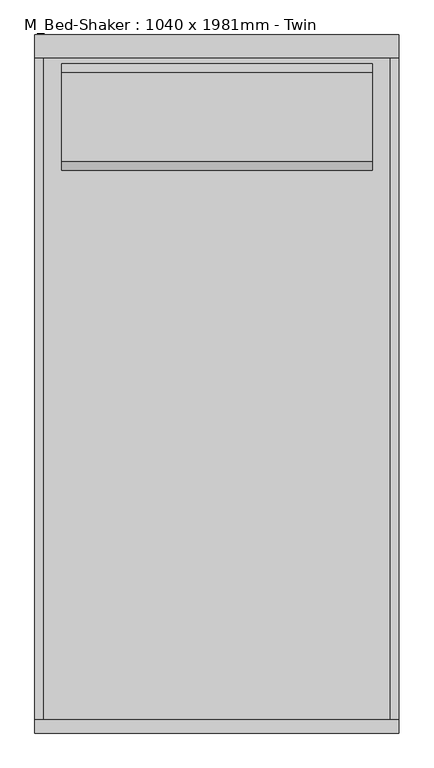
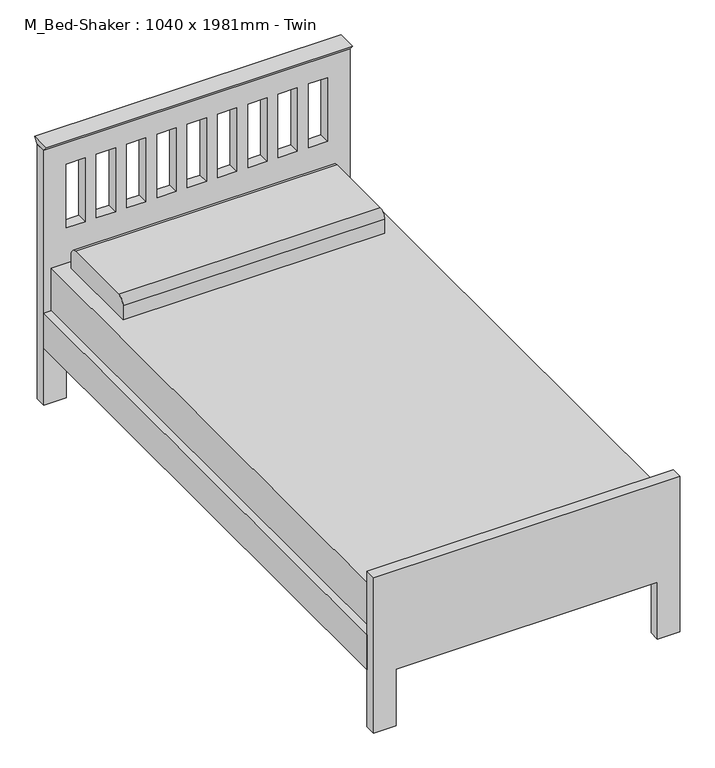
"""IFC4 building model written with IfcOpenShell, lengths in millimetres: furniture geometry, M_Bed-Shaker : 1040 x 1981mm - Twin."""

from ifc_helpers import new_model, si_unit, point, frame, frame_2d, origin, place, context, project, spatial, polyline, circle_curve, trimmed, segment, composite_curve, outline, extrude, source, transform, mapped, element, save


def m_bed_shaker_1040_x_1981mm_twin_31f1bf66(model_context):
    return source(origin(), model_context, "Body", "SweptSolid", [
        extrude(outline(polyline([(-38.1, 914.4), (-51.9545455, 933.45), (13.8545455, 933.45), (0.0, 914.4), (-38.1, 914.4)])), frame((-539.5365546, 0.0, 0.0), z_axis=(1.0, 0.0, 0.0), x_axis=(0.0, 1.0, 0.0)), (0.0, 0.0, 1.0), 1041.4533613),
        extrude(outline(composite_curve([segment(polyline([(-373.2486637, 482.6), (-373.2486637, 533.4)]), True, "CONTINUOUS"), segment(trimmed(circle_curve(frame_2d((-347.8486637, 533.4)), 25.4), [point((-373.2486637, 533.4))], [point((-347.8486637, 558.8))], False, "CARTESIAN"), True, "CONTINUOUS"), segment(polyline([(-347.8486637, 558.8), (-93.8486637, 558.8)]), True, "CONTINUOUS"), segment(trimmed(circle_curve(frame_2d((-93.8486637, 533.4)), 25.4), [point((-93.8486637, 558.8))], [point((-68.4486637, 533.4))], False, "CARTESIAN"), True, "CONTINUOUS"), segment(polyline([(-68.4486637, 533.4), (-68.4486637, 482.6), (-373.2486637, 482.6)]), True, "CONTINUOUS")], self_intersect=False)), frame((-463.55, 0.0, 0.0), z_axis=(1.0, 0.0, 0.0), x_axis=(0.0, 1.0, 0.0)), (0.0, 0.0, 1.0), 889.0),
        extrude(outline(polyline([(476.25, -38.1), (476.25, -1943.1), (-514.35, -1943.1), (-514.35, -38.1), (476.25, -38.1)])), frame((0.0, 0.0, 228.6), z_axis=(0.0, 0.0, 1.0), x_axis=(1.0, 0.0, 0.0)), (0.0, 0.0, 1.0), 254.0),
        extrude(outline(polyline([(476.25, -1943.1), (476.25, -38.1), (501.65, -38.1), (501.65, -1943.1), (476.25, -1943.1)])), frame((0.0, 0.0, 203.0994861), z_axis=(0.0, 0.0, 1.0), x_axis=(1.0, 0.0, 0.0)), (0.0, 0.0, 1.0), 127.0),
        extrude(outline(polyline([(-539.75, -1943.1), (-539.75, -38.1), (-514.35, -38.1), (-514.35, -1943.1), (-539.75, -1943.1)])), frame((0.0, 0.0, 203.5755296), z_axis=(0.0, 0.0, 1.0), x_axis=(1.0, 0.0, 0.0)), (0.0, 0.0, 1.0), 127.0),
        extrude(outline(polyline([(0.0, -463.55), (203.2, -463.55), (203.2, 425.45), (0.0, 425.45), (0.0, 501.65), (558.8, 501.65), (558.8, -539.75), (0.0, -539.75), (0.0, -463.55)])), frame((0.0, -1981.2, 0.0), z_axis=(0.0, 1.0, 0.0), x_axis=(0.0, 0.0, 1.0)), (0.0, 0.0, 1.0), 38.1),
        extrude(outline(polyline([(914.4, 501.9168067), (914.4, -539.5365546), (0.0, -539.5365546), (0.0, -463.55), (203.2, -463.55), (203.2, 425.45), (0.0, 425.45), (0.0, 501.9168067), (914.4, 501.9168067)]), holes=[polyline([(838.2, -398.6388889), (609.6, -398.6388889), (609.6, -463.55), (838.2, -463.55), (838.2, -398.6388889)]), polyline([(838.2, -295.6277778), (609.6, -295.6277778), (609.6, -360.5388889), (838.2, -360.5388889), (838.2, -295.6277778)]), polyline([(838.2, -192.6166667), (609.6, -192.6166667), (609.6, -257.5277778), (838.2, -257.5277778), (838.2, -192.6166667)]), polyline([(838.2, -89.6055556), (609.6, -89.6055556), (609.6, -154.5166667), (838.2, -154.5166667), (838.2, -89.6055556)]), polyline([(838.2, 116.4166667), (609.6, 116.4166667), (609.6, 51.5055556), (838.2, 51.5055556), (838.2, 116.4166667)]), polyline([(838.2, 219.4277778), (609.6, 219.4277778), (609.6, 154.5166667), (838.2, 154.5166667), (838.2, 219.4277778)]), polyline([(838.2, 322.4388889), (609.6, 322.4388889), (609.6, 257.5277778), (838.2, 257.5277778), (838.2, 322.4388889)]), polyline([(838.2, 425.45), (609.6, 425.45), (609.6, 360.5388889), (838.2, 360.5388889), (838.2, 425.45)]), polyline([(838.2, 13.4055556), (609.6, 13.4055556), (609.6, -51.5055556), (838.2, -51.5055556), (838.2, 13.4055556)])]), frame((0.0, -38.1, 0.0), z_axis=(0.0, 1.0, 0.0), x_axis=(0.0, 0.0, 1.0)), (0.0, 0.0, 1.0), 38.1),
    ])


if __name__ == "__main__":
    model = new_model("IFC4")
    model_context = context("Model", 3, world=origin())
    ifc_project = project(units=[si_unit("LENGTHUNIT", "METRE", prefix="MILLI")], contexts=[model_context])
    site = spatial("IfcSite", under=ifc_project)
    building = spatial("IfcBuilding", under=site)
    placement = place(None, origin())
    m_bed_shaker_1040_x_1981mm_twin_shape = m_bed_shaker_1040_x_1981mm_twin_31f1bf66(model_context)
    element("IfcFurniture", 1, ObjectType="M_Bed-Shaker : 1040 x 1981mm - Twin", at=placement, inside=building, context=model_context, shape_type="MappedRepresentation", body=[
        mapped(m_bed_shaker_1040_x_1981mm_twin_shape, transform((0.0, 0.0, 0.0), x_axis=(1.0, 0.0, 0.0), y_axis=(0.0, 1.0, 0.0), z_axis=(0.0, 0.0, 1.0))),
    ])
    save(model, "model.ifc")
